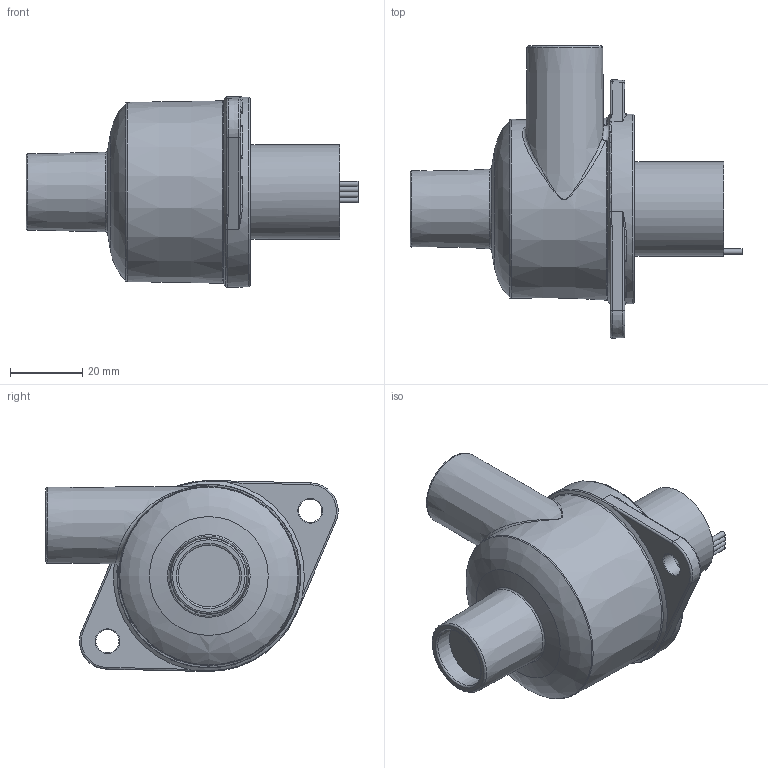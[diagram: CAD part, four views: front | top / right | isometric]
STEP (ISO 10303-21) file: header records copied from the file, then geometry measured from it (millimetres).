
FILE_DESCRIPTION(/* description */ (''),/* implementation_level */ '2;1');
FILE_NAME(/* name */ 'Fan U51HP.stp',/* time_stamp */ '2020-06-08T08:38:31+02:00',/* author */ (''),/* organization */ (''),/* preprocessor_version */ 'ST-DEVELOPER v16',/* originating_system */ 'SIEMENS PLM Software NX 11.0',/* authorisation */ '');
FILE_SCHEMA (('AUTOMOTIVE_DESIGN { 1 0 10303 214 3 1 1 1 }'));
Length unit declared in the file: millimetre
Products named in the file (1): 015685_1-Fan U51HP _U51HP-012KM-43_
Bounding box: 91.7 x 80.71 x 52.77 mm (x, y, z)
Volume: 104638.7 mm3; surface area: 18982.6 mm2
Topology: 1 solids, 3 shells, 182 faces, 439 edges, 260 vertices
Faces by surface type: bspline 51, plane 39, torus 34, cylinder 29, cone 29
Full cylindrical faces by diameter (mm): 1.45 x4, 6.4 x2, 17 x1, 26 x3, 26.1 x2, 46 x1
Entity records: 7450 total; most frequent: CARTESIAN_POINT 2665, ORIENTED_EDGE 736, DIRECTION 694, EDGE_CURVE 368, AXIS2_PLACEMENT_3D 309, VERTEX_POINT 239, EDGE_LOOP 231, ADVANCED_FACE 179
